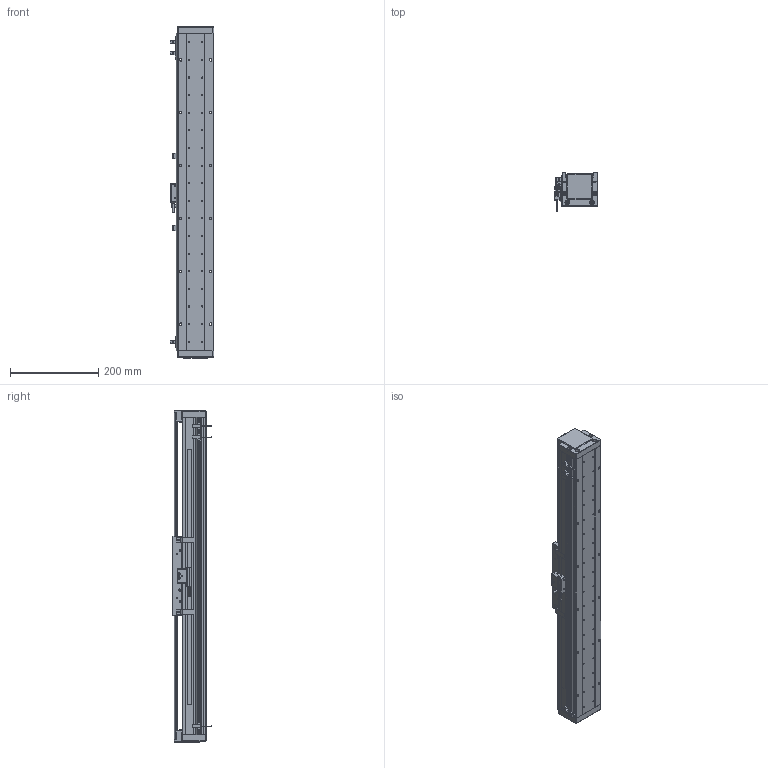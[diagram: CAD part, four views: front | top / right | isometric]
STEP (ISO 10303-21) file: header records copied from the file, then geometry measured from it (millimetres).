
FILE_DESCRIPTION (( 'STEP AP203' ), '1' );
FILE_NAME ('DA-A82-B2-T500-C010-0.2 眻盄萇儂.STEP', '2025-08-13T03:04:15', ( '' ), ( '' ), 'SwSTEP 2.0', 'SolidWorks 2019', '' );
FILE_SCHEMA (( 'CONFIG_CONTROL_DESIGN' ));
Length unit declared in the file: millimetre
Products named in the file (21): 复件 DA95-GT-T-00 底座钢轨^IU-AU82-L 底座导轨; 葩璃 DA60-DMT-DTJ-00 黍杅芛盓殤^DA-A82-B2-T-C010-0.2; 复件 纯铜油杯 6x6mm^AU82-M 滚珠滑台; 葩璃 DA82-T-002-00 裔啣^DA-A82-B2-T-C010-0.2; 葩璃 DA82-B2-DP-00 結え^AU82-M 幗紩賑怢; IU-AU82-L-00 菁釱(L720); DA-A82-B2-T500-C010-0.2 眻盄萇儂; 复件 DA82-DG-H-N-00 端盖^DA-A82-B2-T-C010-0.2(默认_按加工_); 葩璃 PM-T45^DA-A82-B2-T-C010-0.2; AU82-M-00 珨极趙賑雄怢啣; 葩璃 BKM01-W040-TRL^DA-A82-B2-T-C010-0.2; AU82-M 幗紩賑怢; DA-A60-GYP-DMT-00 光电感应片^DA-A82-B2-T-C010-0.2(默认); ｸｴｼ BKM02-W040-C1-TP-DA-3.0 ﾖｱﾏﾟｵ扈巐ｯﾗﾓ^DA-A82-B2-T-C010-0.2; 葩璃 DMT-010 1米m 0.2M^DA-A82-B2-T-C010-0.2; 葩璃 XD-U-02  棠掑喜^DA-A82-B2-T-C010-0.2; IU-AU82-L 菁釱絳寢; AU82-HT-M-00 賑雄怢啣; 葩璃 鞠褒情蹟譫 M3^DA-A82-B2-T-C010-0.2; 复件 复件 DA82-XJ-00 缓冲橡胶^DA-A82-B2-T-C010-0.2; 复件 DA95-B2-GT-00 滑块钢轨^AU82-M-00 一体化滑动台板
Assembly tree (36 placements, depth 4):
  DA-A82-B2-T500-C010-0.2 眻盄萇儂
    IU-AU82-L 菁釱絳寢
      IU-AU82-L-00 菁釱(L720)
      复件 DA95-GT-T-00 底座钢轨^IU-AU82-L 底座导轨  x2
    AU82-M 幗紩賑怢
      AU82-M-00 珨极趙賑雄怢啣
        AU82-HT-M-00 賑雄怢啣
        复件 DA95-B2-GT-00 滑块钢轨^AU82-M-00 一体化滑动台板  x4
      葩璃 DA82-B2-DP-00 結え^AU82-M 幗紩賑怢  x2
      复件 纯铜油杯 6x6mm^AU82-M 滚珠滑台  x2
    葩璃 DA60-DMT-DTJ-00 黍杅芛盓殤^DA-A82-B2-T-C010-0.2
    葩璃 DMT-010 1米m 0.2M^DA-A82-B2-T-C010-0.2
    DA-A60-GYP-DMT-00 光电感应片^DA-A82-B2-T-C010-0.2(默认)  x2
    ｸｴｼ BKM02-W040-C1-TP-DA-3.0 ﾖｱﾏﾟｵ扈巐ｯﾗﾓ^DA-A82-B2-T-C010-0.2
    复件 复件 DA82-XJ-00 缓冲橡胶^DA-A82-B2-T-C010-0.2  x2
    复件 DA82-DG-H-N-00 端盖^DA-A82-B2-T-C010-0.2(默认_按加工_)  x2
    葩璃 DA82-T-002-00 裔啣^DA-A82-B2-T-C010-0.2
    葩璃 BKM01-W040-TRL^DA-A82-B2-T-C010-0.2
    葩璃 PM-T45^DA-A82-B2-T-C010-0.2  x3
    葩璃 XD-U-02  棠掑喜^DA-A82-B2-T-C010-0.2
    葩璃 鞠褒情蹟譫 M3^DA-A82-B2-T-C010-0.2  x6
Bounding box: 98.95 x 87.2 x 754 mm (x, y, z)
Volume: 2581631.8 mm3; surface area: 734525.4 mm2
Topology: 40 solids, 64 shells, 1975 faces, 5122 edges, 3180 vertices
Faces by surface type: cylinder 883, plane 784, cone 252, torus 38, bspline 12, sphere 6
Entity records: 51281 total; most frequent: CARTESIAN_POINT 11041, DIRECTION 8102, ORIENTED_EDGE 7566, EDGE_CURVE 3783, AXIS2_PLACEMENT_3D 3044, VERTEX_POINT 2447, VECTOR 2014, LINE 2014
